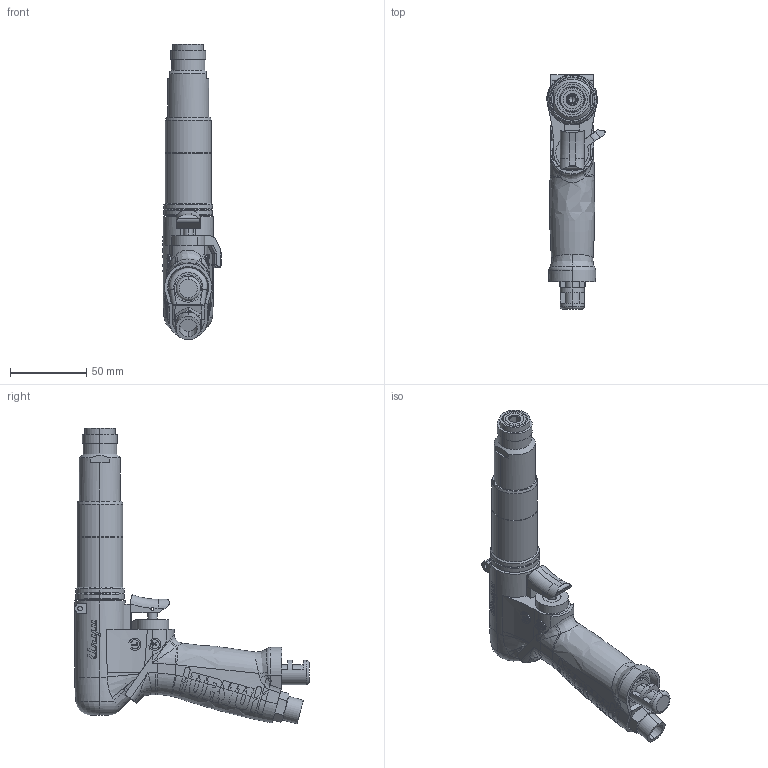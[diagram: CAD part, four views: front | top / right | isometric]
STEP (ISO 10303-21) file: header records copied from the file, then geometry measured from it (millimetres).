
FILE_DESCRIPTION (( 'STEP AP203' ), '1' );
FILE_NAME ('US-LT31PB-05.STEP', '2006-03-22T04:03:38', ( '' ), ( '' ), 'SwSTEP 2.0', 'SolidWorks 2003240', '' );
FILE_SCHEMA (( 'CONFIG_CONTROL_DESIGN' ));
Length unit declared in the file: millimetre
Products named in the file (9): 4802128_US-LT31PB-05_蹬怮椔; 1771075_US-LT31PB-05_蹬怮椔; US-LT31PB-05; 4623199_US-LT31PB-05_蹬怮椔; 4715676_US-LT31PB-05_蹬怮椔; 4623699_US-LT31PB-05_蹬怮椔; 4420255_US-LT31PB-05_蹬怮椔; 9810020_US-LT31PB-05_蹬怮椔; 1748428_US-LT31PB-05_蹬怮椔
Assembly tree (8 placements, depth 2):
  US-LT31PB-05
    1771075_US-LT31PB-05_蹬怮椔
    4715676_US-LT31PB-05_蹬怮椔
    4420255_US-LT31PB-05_蹬怮椔
    4623199_US-LT31PB-05_蹬怮椔
    1748428_US-LT31PB-05_蹬怮椔
    4802128_US-LT31PB-05_蹬怮椔
    4623699_US-LT31PB-05_蹬怮椔
    9810020_US-LT31PB-05_蹬怮椔
Bounding box: 38.37 x 154 x 194.21 mm (x, y, z)
Volume: 246903.9 mm3; surface area: 64254.8 mm2
Topology: 8 solids, 8 shells, 1243 faces, 3417 edges, 2218 vertices
Faces by surface type: plane 618, bspline 289, cylinder 269, cone 42, torus 23, sphere 2
Entity records: 152239 total; most frequent: CARTESIAN_POINT 124340, ORIENTED_EDGE 6800, DIRECTION 3942, EDGE_CURVE 3400, VERTEX_POINT 2215, B_SPLINE_CURVE_WITH_KNOTS 1389, AXIS2_PLACEMENT_3D 1382, EDGE_LOOP 1295
